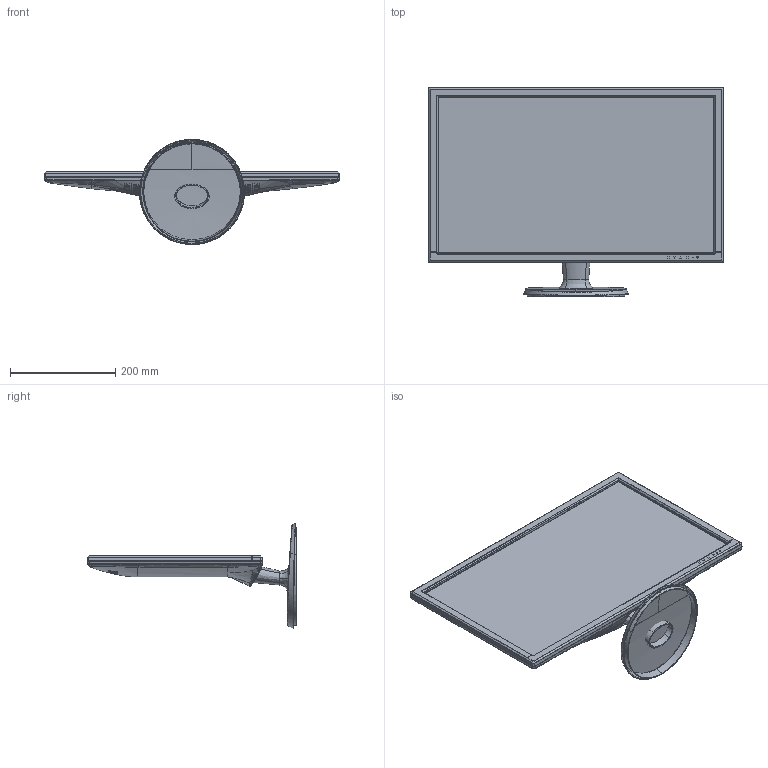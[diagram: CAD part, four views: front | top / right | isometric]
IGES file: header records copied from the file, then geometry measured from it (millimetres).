
Start section: SolidWorks IGES file using analytic representation for surfaces
Global section: file name: C:\Users\ebarton\Documents\Redoing Drawings Project\Finished Products\997-7346 (PXL2470MW)\997-7346.IGS; native system: SolidWorks 2016; preprocessor: SolidWorks 2016; author: ebarton; date: 160412.143914; units: millimetre
Bounding box: 561.27 x 398.21 x 199.36 mm (x, y, z)
Surface area: 941500.7 mm2 (no closed solid volume)
Topology: 0 solids, 0 shells, 3331 faces, 35690 edges, 35662 vertices
Faces by surface type: bspline 2327, revolution 1004
